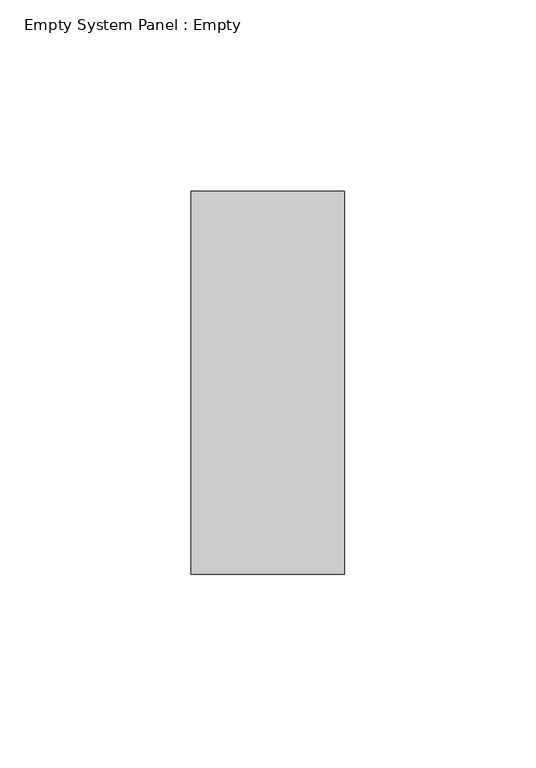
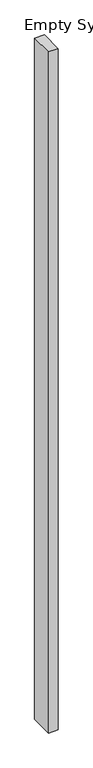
"""IFC4 building model written with IfcOpenShell, lengths in millimetres: plate geometry, Empty System Panel : Empty."""

from ifc_helpers import new_model, si_unit, origin, origin_with_axes, place, context, project, spatial, polyline, outline, extrude, source, transform, mapped, element, save


def empty_system_panel_empty_a0fcacb3(model_context):
    return source(origin(), model_context, "Body", "SweptSolid", [
        extrude(outline(polyline([(19.9999998, 50.0), (-19.9999998, 50.0), (-19.9999998, 150.0), (19.9999998, 150.0), (19.9999998, 50.0)])), origin_with_axes(), (0.0, 0.0, 1.0), 3000.0),
    ])


if __name__ == "__main__":
    model = new_model("IFC4")
    model_context = context("Model", 3, world=origin())
    ifc_project = project(units=[si_unit("LENGTHUNIT", "METRE", prefix="MILLI")], contexts=[model_context])
    site = spatial("IfcSite", under=ifc_project)
    building = spatial("IfcBuilding", under=site)
    placement = place(None, origin())
    empty_system_panel_empty_shape = empty_system_panel_empty_a0fcacb3(model_context)
    element("IfcPlate", 1, ObjectType="Empty System Panel : Empty", at=placement, inside=building, context=model_context, shape_type="MappedRepresentation", body=[
        mapped(empty_system_panel_empty_shape, transform((0.0, 0.0, 0.0), x_axis=(1.0, 0.0, 0.0), y_axis=(0.0, 1.0, 0.0), z_axis=(0.0, 0.0, 1.0))),
    ])
    save(model, "model.ifc")
